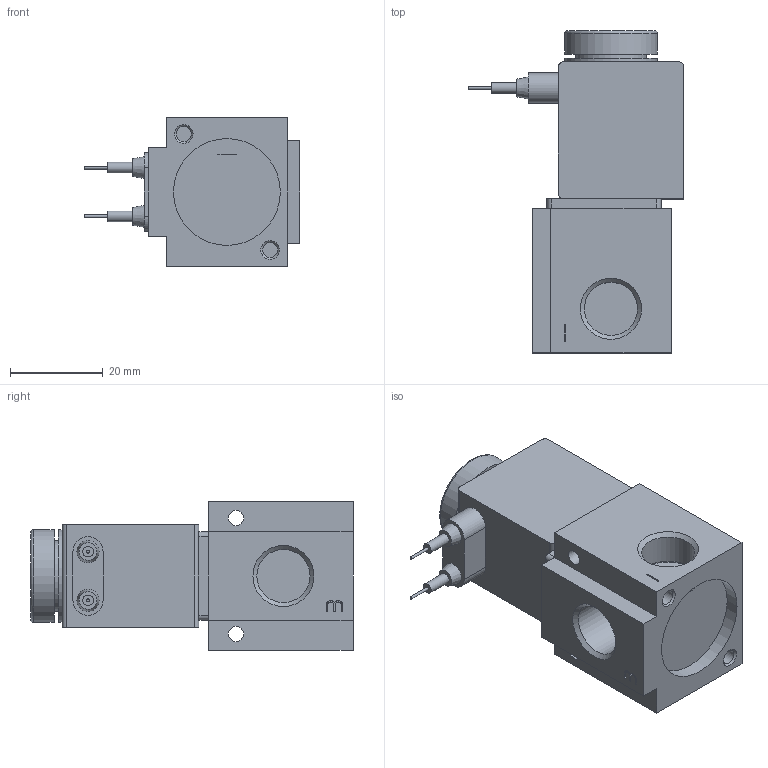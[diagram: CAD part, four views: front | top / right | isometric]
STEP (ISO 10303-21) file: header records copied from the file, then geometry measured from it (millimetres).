
FILE_DESCRIPTION( ( 'STEP AP214' ), '1' );
FILE_NAME( 'C:/Users/EMC02301/Desktop/ET307图纸/ET307-08E4F.stp', '2026-08-20T05:56:31', ( 'License CC BY-ND 4.0' ), ( 'CADENAS' ), ' ', 'PARTsolutions', ' ' );
FILE_SCHEMA( ( 'AUTOMOTIVE_DESIGN { 1 0 10303 214 1 1 1 1 }' ) );
Length unit declared in the file: millimetre
Products named in the file (1): _ET307-08E4F-_et307_body
Bounding box: 46.45 x 69.4 x 32 mm (x, y, z)
Volume: 44977.5 mm3; surface area: 12108.7 mm2
Topology: 1 solids, 1 shells, 109 faces, 251 edges, 163 vertices
Faces by surface type: plane 55, cylinder 41, cone 12, torus 1
Full cylindrical faces by diameter (mm): 0.6 x2, 2.3 x2, 3.242 x2, 3.3 x2, 11.445 x3, 15.2 x1, 20 x2, 23 x1
Entity records: 3852 total; most frequent: DIRECTION 538, CARTESIAN_POINT 499, ORIENTED_EDGE 444, EDGE_CURVE 222, AXIS2_PLACEMENT_3D 207, EDGE_LOOP 162, VERTEX_POINT 162, FACE_OUTER_BOUND 125
